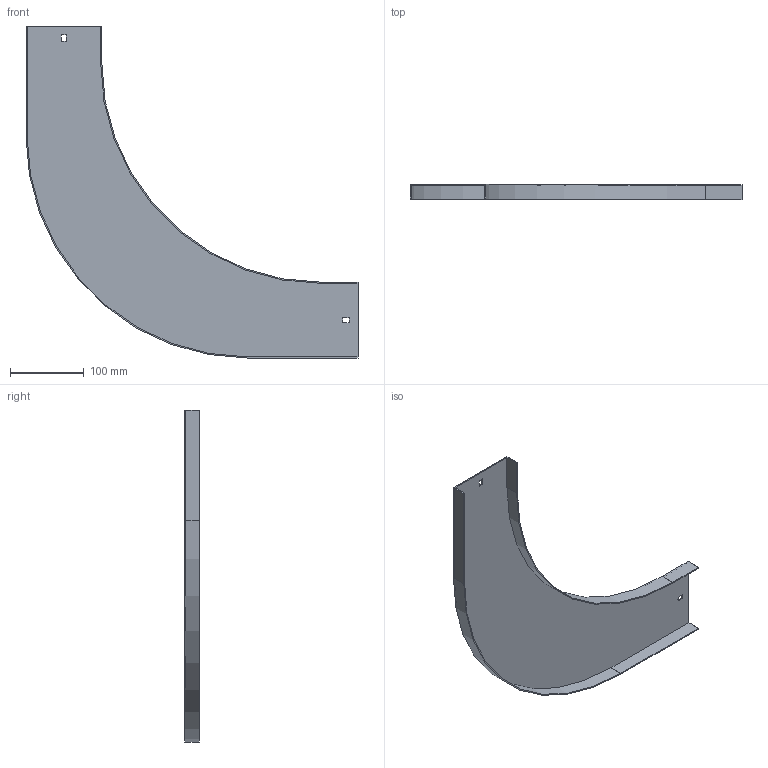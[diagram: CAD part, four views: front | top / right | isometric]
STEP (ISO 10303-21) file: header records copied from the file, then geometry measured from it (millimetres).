
FILE_DESCRIPTION (( 'STEP AP214' ), '1' );
FILE_NAME ('B2_10N3R100.step', '2025-02-21T10:54:13', ( '' ), ( '' ), 'SwSTEP 2.0', 'SolidWorks 2023', '' );
FILE_SCHEMA (( 'AUTOMOTIVE_DESIGN' ));
Length unit declared in the file: millimetre
Products named in the file (1): B2_10N3R100
Bounding box: 451.5 x 20 x 451.5 mm (x, y, z)
Volume: 160098.8 mm3; surface area: 215991.8 mm2
Topology: 1 solids, 1 shells, 26 faces, 72 edges, 48 vertices
Faces by surface type: plane 22, cylinder 4
Entity records: 855 total; most frequent: CARTESIAN_POINT 147, ORIENTED_EDGE 144, DIRECTION 134, EDGE_CURVE 72, VECTOR 64, LINE 64, VERTEX_POINT 48, AXIS2_PLACEMENT_3D 35
